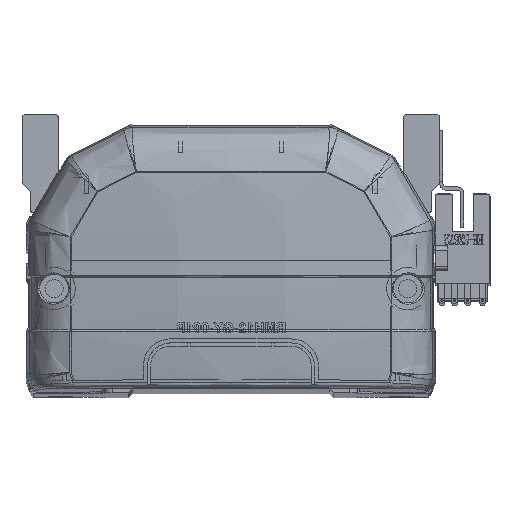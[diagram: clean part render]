
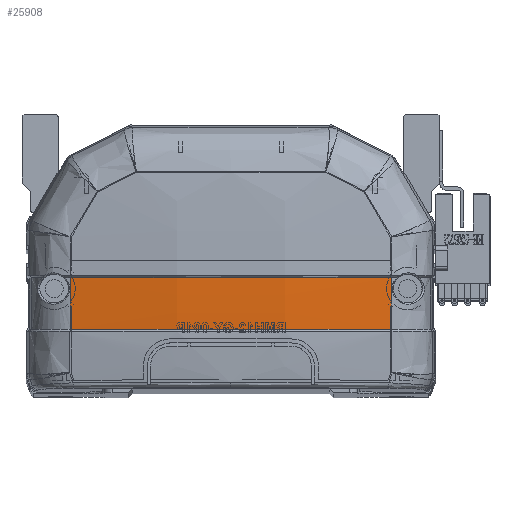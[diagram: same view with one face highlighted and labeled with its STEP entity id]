
A CAD part, top view. The second image highlights one B-rep face of the part: STEP entity #25908.
In plain terms, the highlighted free-form (B-spline) face has degree [3, 3] with [4, 4] control points.
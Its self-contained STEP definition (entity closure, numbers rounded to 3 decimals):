
#2392 = ORIENTED_EDGE ( 'NONE', *, *, #26841, .F. ) ;
#2509 = CARTESIAN_POINT ( 'NONE',  ( -23.389, 15.83, -7.947 ) ) ;
#5622 = CARTESIAN_POINT ( 'NONE',  ( -39.963, 28.706, -6.372 ) ) ;
#7700 = CARTESIAN_POINT ( 'NONE',  ( 13.598, 19.918, -10.302 ) ) ;
#7768 = CARTESIAN_POINT ( 'NONE',  ( -39.985, 15.83, -5.879 ) ) ;
#7824 = CARTESIAN_POINT ( 'NONE',  ( -13.373, 28.707, -9.468 ) ) ;
#8041 = CARTESIAN_POINT ( 'NONE',  ( -13.598, 28.769, -10.535 ) ) ;
#8318 = EDGE_CURVE ( 'NONE', #13208, #23356, #25953, .T. ) ;
#9854 = B_SPLINE_CURVE_WITH_KNOTS ( 'NONE', 3,
 ( #15343, #22690, #7824, #41331, #41012, #19117 ),
 .UNSPECIFIED., .F., .F.,
 ( 4, 2, 4 ),
 ( 0., 0.5, 1. ),
 .UNSPECIFIED. ) ;
#9989 = EDGE_CURVE ( 'NONE', #13208, #19289, #17294, .T. ) ;
#10195 = CARTESIAN_POINT ( 'NONE',  ( -13.384, 15.83, -8.724 ) ) ;
#10359 = CARTESIAN_POINT ( 'NONE',  ( -26.721, 15.83, -7.624 ) ) ;
#11304 = CARTESIAN_POINT ( 'NONE',  ( -40.461, 15.757, -5.8 ) ) ;
#11968 = CARTESIAN_POINT ( 'NONE',  ( -40.461, 24.47, -6.231 ) ) ;
#13208 = VERTEX_POINT ( 'NONE', #26324 ) ;
#13790 = CARTESIAN_POINT ( 'NONE',  ( -6.692, 15.83, -8.984 ) ) ;
#15343 = CARTESIAN_POINT ( 'NONE',  ( -39.963, 28.706, -6.372 ) ) ;
#15548 = CARTESIAN_POINT ( 'NONE',  ( 40.461, 20.111, -6.066 ) ) ;
#16942 = ORIENTED_EDGE ( 'NONE', *, *, #30656, .T. ) ;
#17294 = B_SPLINE_CURVE_WITH_KNOTS ( 'NONE', 3,
 ( #47449, #25029, #47130, #13790, #10195, #2509, #10359, #39799, #18030, #24876 ),
 .UNSPECIFIED., .F., .F.,
 ( 4, 2, 2, 2, 4 ),
 ( 0., 0.04, 0.06, 0.07, 0.08 ),
 .UNSPECIFIED. ) ;
#18030 = CARTESIAN_POINT ( 'NONE',  ( -36.679, 15.83, -6.395 ) ) ;
#18638 = CARTESIAN_POINT ( 'NONE',  ( 39.963, 28.706, -6.372 ) ) ;
#18901 = CARTESIAN_POINT ( 'NONE',  ( -39.966, 24.412, -6.306 ) ) ;
#19117 = CARTESIAN_POINT ( 'NONE',  ( 39.963, 28.706, -6.372 ) ) ;
#19156 = CARTESIAN_POINT ( 'NONE',  ( 40.461, 28.832, -6.296 ) ) ;
#19289 = VERTEX_POINT ( 'NONE', #32751 ) ;
#22631 = CARTESIAN_POINT ( 'NONE',  ( -39.973, 20.118, -6.142 ) ) ;
#22690 = CARTESIAN_POINT ( 'NONE',  ( -26.748, 28.706, -8.432 ) ) ;
#23052 = CARTESIAN_POINT ( 'NONE',  ( -40.461, 20.111, -6.066 ) ) ;
#23356 = VERTEX_POINT ( 'NONE', #30089 ) ;
#24876 = CARTESIAN_POINT ( 'NONE',  ( -39.985, 15.83, -5.879 ) ) ;
#25029 = CARTESIAN_POINT ( 'NONE',  ( 26.761, 15.83, -7.945 ) ) ;
#25908 = ADVANCED_FACE ( 'NONE', ( #41036 ), #45773, .F. ) ;
#25953 = B_SPLINE_CURVE_WITH_KNOTS ( 'NONE', 3,
 ( #33222, #26086, #33549, #18638 ),
 .UNSPECIFIED., .F., .F.,
 ( 4, 4 ),
 ( 0., 1. ),
 .UNSPECIFIED. ) ;
#26086 = CARTESIAN_POINT ( 'NONE',  ( 39.973, 20.12, -6.142 ) ) ;
#26294 = CARTESIAN_POINT ( 'NONE',  ( 13.598, 15.499, -10.032 ) ) ;
#26324 = CARTESIAN_POINT ( 'NONE',  ( 39.985, 15.83, -5.879 ) ) ;
#26461 = CARTESIAN_POINT ( 'NONE',  ( 13.598, 24.342, -10.47 ) ) ;
#26841 = EDGE_CURVE ( 'NONE', #45191, #23356, #9854, .T. ) ;
#30047 = CARTESIAN_POINT ( 'NONE',  ( 40.461, 24.47, -6.231 ) ) ;
#30089 = CARTESIAN_POINT ( 'NONE',  ( 39.963, 28.706, -6.372 ) ) ;
#30656 = EDGE_CURVE ( 'NONE', #45191, #19289, #45145, .T. ) ;
#32751 = CARTESIAN_POINT ( 'NONE',  ( -39.985, 15.83, -5.879 ) ) ;
#33222 = CARTESIAN_POINT ( 'NONE',  ( 39.985, 15.83, -5.879 ) ) ;
#33549 = CARTESIAN_POINT ( 'NONE',  ( 39.966, 24.413, -6.306 ) ) ;
#33588 = CARTESIAN_POINT ( 'NONE',  ( 40.461, 15.757, -5.8 ) ) ;
#33818 = CARTESIAN_POINT ( 'NONE',  ( -39.963, 28.706, -6.372 ) ) ;
#34224 = CARTESIAN_POINT ( 'NONE',  ( 13.598, 28.769, -10.535 ) ) ;
#37821 = CARTESIAN_POINT ( 'NONE',  ( -13.598, 19.918, -10.302 ) ) ;
#37904 = ORIENTED_EDGE ( 'NONE', *, *, #9989, .F. ) ;
#38099 = EDGE_LOOP ( 'NONE', ( #43778, #2392, #16942, #37904 ) ) ;
#39799 = CARTESIAN_POINT ( 'NONE',  ( -33.365, 15.83, -6.848 ) ) ;
#41012 = CARTESIAN_POINT ( 'NONE',  ( 26.749, 28.706, -8.432 ) ) ;
#41036 = FACE_OUTER_BOUND ( 'NONE', #38099, .T. ) ;
#41214 = CARTESIAN_POINT ( 'NONE',  ( -13.598, 24.342, -10.47 ) ) ;
#41331 = CARTESIAN_POINT ( 'NONE',  ( 13.375, 28.707, -9.468 ) ) ;
#43778 = ORIENTED_EDGE ( 'NONE', *, *, #8318, .T. ) ;
#45141 = CARTESIAN_POINT ( 'NONE',  ( -40.461, 28.832, -6.296 ) ) ;
#45145 = B_SPLINE_CURVE_WITH_KNOTS ( 'NONE', 3,
 ( #33818, #18901, #22631, #7768 ),
 .UNSPECIFIED., .F., .F.,
 ( 4, 4 ),
 ( 0., 1. ),
 .UNSPECIFIED. ) ;
#45191 = VERTEX_POINT ( 'NONE', #5622 ) ;
#45301 = CARTESIAN_POINT ( 'NONE',  ( -13.598, 15.499, -10.032 ) ) ;
#45773 =( BOUNDED_SURFACE ( )  B_SPLINE_SURFACE ( 3, 3, ( 
 ( #33588, #15548, #30047, #19156 ),
 ( #26294, #7700, #26461, #34224 ),
 ( #45301, #37821, #41214, #8041 ),
 ( #11304, #23052, #11968, #45141 ) ),
 .UNSPECIFIED., .F., .F., .F. ) 
 B_SPLINE_SURFACE_WITH_KNOTS ( ( 4, 4 ),
 ( 4, 4 ),
 ( 0., 1. ),
 ( 0., 1. ),
 .UNSPECIFIED. ) 
 GEOMETRIC_REPRESENTATION_ITEM ( )  RATIONAL_B_SPLINE_SURFACE ( (
 ( 1., 1., 1., 1.),
 ( 0.992, 0.992, 0.992, 0.992),
 ( 0.992, 0.992, 0.992, 0.992),
 ( 1., 1., 1., 1.) ) ) 
 REPRESENTATION_ITEM ( '' )  SURFACE ( )  );
#47130 = CARTESIAN_POINT ( 'NONE',  ( 13.38, 15.83, -8.984 ) ) ;
#47449 = CARTESIAN_POINT ( 'NONE',  ( 39.985, 15.83, -5.879 ) ) ;
